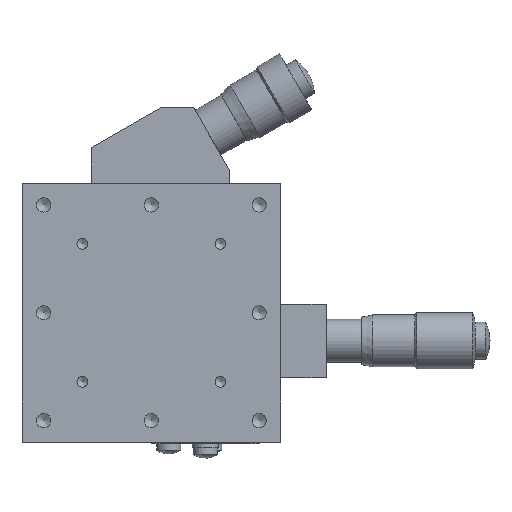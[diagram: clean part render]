
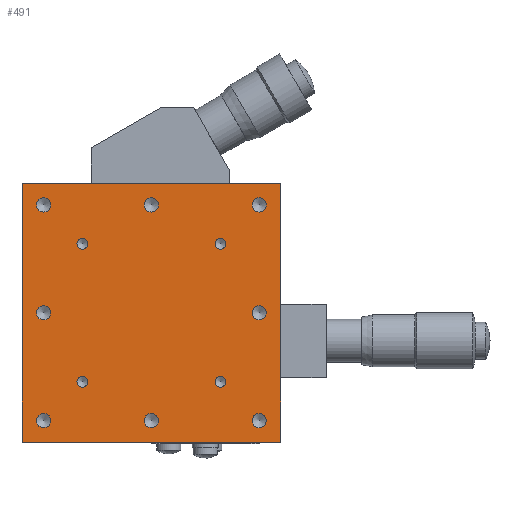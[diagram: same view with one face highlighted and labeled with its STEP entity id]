
A CAD part, top view. The second image highlights one B-rep face of the part: STEP entity #491.
In plain terms, the highlighted planar face has unit normal (0, 0, 1).
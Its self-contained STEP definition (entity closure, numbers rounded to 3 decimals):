
#491 = ADVANCED_FACE( '', ( #1070, #1071, #1072, #1073, #1074, #1075, #1076, #1077, #1078, #1079, #1080, #1081, #1082 ), #1083, .T. );
#1070 = FACE_BOUND( '', #1719, .T. );
#1071 = FACE_BOUND( '', #1720, .T. );
#1072 = FACE_BOUND( '', #1721, .T. );
#1073 = FACE_BOUND( '', #1722, .T. );
#1074 = FACE_BOUND( '', #1723, .T. );
#1075 = FACE_BOUND( '', #1724, .T. );
#1076 = FACE_BOUND( '', #1725, .T. );
#1077 = FACE_BOUND( '', #1726, .T. );
#1078 = FACE_BOUND( '', #1727, .T. );
#1079 = FACE_BOUND( '', #1728, .T. );
#1080 = FACE_BOUND( '', #1729, .T. );
#1081 = FACE_BOUND( '', #1730, .T. );
#1082 = FACE_OUTER_BOUND( '', #1731, .T. );
#1083 = PLANE( '', #1732 );
#1719 = EDGE_LOOP( '', ( #2827 ) );
#1720 = EDGE_LOOP( '', ( #2828 ) );
#1721 = EDGE_LOOP( '', ( #2829 ) );
#1722 = EDGE_LOOP( '', ( #2830 ) );
#1723 = EDGE_LOOP( '', ( #2831 ) );
#1724 = EDGE_LOOP( '', ( #2832 ) );
#1725 = EDGE_LOOP( '', ( #2833 ) );
#1726 = EDGE_LOOP( '', ( #2834 ) );
#1727 = EDGE_LOOP( '', ( #2835 ) );
#1728 = EDGE_LOOP( '', ( #2836 ) );
#1729 = EDGE_LOOP( '', ( #2837 ) );
#1730 = EDGE_LOOP( '', ( #2838 ) );
#1731 = EDGE_LOOP( '', ( #2839, #2840, #2841, #2842 ) );
#1732 = AXIS2_PLACEMENT_3D( '', #2843, #2844, #2845 );
#2827 = ORIENTED_EDGE( '', *, *, #3009, .T. );
#2828 = ORIENTED_EDGE( '', *, *, #3221, .T. );
#2829 = ORIENTED_EDGE( '', *, *, #3034, .T. );
#2830 = ORIENTED_EDGE( '', *, *, #3225, .T. );
#2831 = ORIENTED_EDGE( '', *, *, #3287, .T. );
#2832 = ORIENTED_EDGE( '', *, *, #3092, .T. );
#2833 = ORIENTED_EDGE( '', *, *, #3186, .T. );
#2834 = ORIENTED_EDGE( '', *, *, #3327, .T. );
#2835 = ORIENTED_EDGE( '', *, *, #3362, .T. );
#2836 = ORIENTED_EDGE( '', *, *, #3305, .T. );
#2837 = ORIENTED_EDGE( '', *, *, #3285, .T. );
#2838 = ORIENTED_EDGE( '', *, *, #3392, .T. );
#2839 = ORIENTED_EDGE( '', *, *, #3281, .T. );
#2840 = ORIENTED_EDGE( '', *, *, #3094, .F. );
#2841 = ORIENTED_EDGE( '', *, *, #3029, .T. );
#2842 = ORIENTED_EDGE( '', *, *, #3393, .T. );
#2843 = CARTESIAN_POINT( '', ( 0., 0., 30. ) );
#2844 = DIRECTION( '', ( 0., 0., 1. ) );
#2845 = DIRECTION( '', ( 1., 0., 0. ) );
#3009 = EDGE_CURVE( '', #3474, #3474, #3475, .T. );
#3029 = EDGE_CURVE( '', #3511, #3509, #3512, .T. );
#3034 = EDGE_CURVE( '', #3519, #3519, #3520, .T. );
#3092 = EDGE_CURVE( '', #3615, #3615, #3616, .T. );
#3094 = EDGE_CURVE( '', #3511, #3618, #3619, .T. );
#3186 = EDGE_CURVE( '', #3761, #3761, #3762, .T. );
#3221 = EDGE_CURVE( '', #3816, #3816, #3817, .T. );
#3225 = EDGE_CURVE( '', #3822, #3822, #3823, .T. );
#3281 = EDGE_CURVE( '', #3903, #3618, #3904, .T. );
#3285 = EDGE_CURVE( '', #3908, #3908, #3909, .T. );
#3287 = EDGE_CURVE( '', #3911, #3911, #3912, .T. );
#3305 = EDGE_CURVE( '', #3934, #3934, #3935, .T. );
#3327 = EDGE_CURVE( '', #3962, #3962, #3963, .T. );
#3362 = EDGE_CURVE( '', #4001, #4001, #4002, .T. );
#3392 = EDGE_CURVE( '', #4030, #4030, #4031, .T. );
#3393 = EDGE_CURVE( '', #3509, #3903, #4032, .T. );
#3474 = VERTEX_POINT( '', #4119 );
#3475 = CIRCLE( '', #4120, 1.25 );
#3509 = VERTEX_POINT( '', #4164 );
#3511 = VERTEX_POINT( '', #4167 );
#3512 = LINE( '', #4168, #4169 );
#3519 = VERTEX_POINT( '', #4178 );
#3520 = CIRCLE( '', #4179, 1.25 );
#3615 = VERTEX_POINT( '', #4297 );
#3616 = CIRCLE( '', #4298, 1.65 );
#3618 = VERTEX_POINT( '', #4300 );
#3619 = LINE( '', #4301, #4302 );
#3761 = VERTEX_POINT( '', #4487 );
#3762 = CIRCLE( '', #4488, 1.65 );
#3816 = VERTEX_POINT( '', #4562 );
#3817 = CIRCLE( '', #4563, 1.25 );
#3822 = VERTEX_POINT( '', #4568 );
#3823 = CIRCLE( '', #4569, 1.25 );
#3903 = VERTEX_POINT( '', #4672 );
#3904 = LINE( '', #4673, #4674 );
#3908 = VERTEX_POINT( '', #4680 );
#3909 = CIRCLE( '', #4681, 1.65 );
#3911 = VERTEX_POINT( '', #4683 );
#3912 = CIRCLE( '', #4684, 1.65 );
#3934 = VERTEX_POINT( '', #4706 );
#3935 = CIRCLE( '', #4707, 1.65 );
#3962 = VERTEX_POINT( '', #4740 );
#3963 = CIRCLE( '', #4741, 1.65 );
#4001 = VERTEX_POINT( '', #4792 );
#4002 = CIRCLE( '', #4793, 1.65 );
#4030 = VERTEX_POINT( '', #4824 );
#4031 = CIRCLE( '', #4825, 1.65 );
#4032 = LINE( '', #4826, #4827 );
#4119 = CARTESIAN_POINT( '', ( -16., 14.75, 30. ) );
#4120 = AXIS2_PLACEMENT_3D( '', #4912, #4913, #4914 );
#4164 = CARTESIAN_POINT( '', ( -30., -30., 30. ) );
#4167 = CARTESIAN_POINT( '', ( -30., 30., 30. ) );
#4168 = CARTESIAN_POINT( '', ( -30., 0., 30. ) );
#4169 = VECTOR( '', #4938, 1000. );
#4178 = CARTESIAN_POINT( '', ( 16., -17.25, 30. ) );
#4179 = AXIS2_PLACEMENT_3D( '', #4944, #4945, #4946 );
#4297 = CARTESIAN_POINT( '', ( -25., 23.35, 30. ) );
#4298 = AXIS2_PLACEMENT_3D( '', #5024, #5025, #5026 );
#4300 = CARTESIAN_POINT( '', ( 30., 30., 30. ) );
#4301 = CARTESIAN_POINT( '', ( 0., 30., 30. ) );
#4302 = VECTOR( '', #5027, 1000. );
#4487 = CARTESIAN_POINT( '', ( 0., 23.35, 30. ) );
#4488 = AXIS2_PLACEMENT_3D( '', #5134, #5135, #5136 );
#4562 = CARTESIAN_POINT( '', ( 16., 14.75, 30. ) );
#4563 = AXIS2_PLACEMENT_3D( '', #5172, #5173, #5174 );
#4568 = CARTESIAN_POINT( '', ( -16., -17.25, 30. ) );
#4569 = AXIS2_PLACEMENT_3D( '', #5178, #5179, #5180 );
#4672 = CARTESIAN_POINT( '', ( 30., -30., 30. ) );
#4673 = CARTESIAN_POINT( '', ( 30., 0., 30. ) );
#4674 = VECTOR( '', #5243, 1000. );
#4680 = CARTESIAN_POINT( '', ( 0., -26.65, 30. ) );
#4681 = AXIS2_PLACEMENT_3D( '', #5246, #5247, #5248 );
#4683 = CARTESIAN_POINT( '', ( -25., -1.65, 30. ) );
#4684 = AXIS2_PLACEMENT_3D( '', #5249, #5250, #5251 );
#4706 = CARTESIAN_POINT( '', ( 25., -26.65, 30. ) );
#4707 = AXIS2_PLACEMENT_3D( '', #5273, #5274, #5275 );
#4740 = CARTESIAN_POINT( '', ( 25., 23.35, 30. ) );
#4741 = AXIS2_PLACEMENT_3D( '', #5294, #5295, #5296 );
#4792 = CARTESIAN_POINT( '', ( 25., -1.65, 30. ) );
#4793 = AXIS2_PLACEMENT_3D( '', #5319, #5320, #5321 );
#4824 = CARTESIAN_POINT( '', ( -25., -26.65, 30. ) );
#4825 = AXIS2_PLACEMENT_3D( '', #5334, #5335, #5336 );
#4826 = CARTESIAN_POINT( '', ( 0., -30., 30. ) );
#4827 = VECTOR( '', #5337, 1000. );
#4912 = CARTESIAN_POINT( '', ( -16., 16., 30. ) );
#4913 = DIRECTION( '', ( 0., 0., -1. ) );
#4914 = DIRECTION( '', ( 0., -1., 0. ) );
#4938 = DIRECTION( '', ( 0., -1., 0. ) );
#4944 = CARTESIAN_POINT( '', ( 16., -16., 30. ) );
#4945 = DIRECTION( '', ( 0., 0., -1. ) );
#4946 = DIRECTION( '', ( 0., -1., 0. ) );
#5024 = CARTESIAN_POINT( '', ( -25., 25., 30. ) );
#5025 = DIRECTION( '', ( 0., 0., -1. ) );
#5026 = DIRECTION( '', ( 0., -1., 0. ) );
#5027 = DIRECTION( '', ( 1., 0., 0. ) );
#5134 = CARTESIAN_POINT( '', ( 0., 25., 30. ) );
#5135 = DIRECTION( '', ( 0., 0., -1. ) );
#5136 = DIRECTION( '', ( 0., -1., 0. ) );
#5172 = CARTESIAN_POINT( '', ( 16., 16., 30. ) );
#5173 = DIRECTION( '', ( 0., 0., -1. ) );
#5174 = DIRECTION( '', ( 0., -1., 0. ) );
#5178 = CARTESIAN_POINT( '', ( -16., -16., 30. ) );
#5179 = DIRECTION( '', ( 0., 0., -1. ) );
#5180 = DIRECTION( '', ( 0., -1., 0. ) );
#5243 = DIRECTION( '', ( 0., 1., 0. ) );
#5246 = CARTESIAN_POINT( '', ( 0., -25., 30. ) );
#5247 = DIRECTION( '', ( 0., 0., -1. ) );
#5248 = DIRECTION( '', ( 0., -1., 0. ) );
#5249 = CARTESIAN_POINT( '', ( -25., 0., 30. ) );
#5250 = DIRECTION( '', ( 0., 0., -1. ) );
#5251 = DIRECTION( '', ( 0., -1., 0. ) );
#5273 = CARTESIAN_POINT( '', ( 25., -25., 30. ) );
#5274 = DIRECTION( '', ( 0., 0., -1. ) );
#5275 = DIRECTION( '', ( 0., -1., 0. ) );
#5294 = CARTESIAN_POINT( '', ( 25., 25., 30. ) );
#5295 = DIRECTION( '', ( 0., 0., -1. ) );
#5296 = DIRECTION( '', ( 0., -1., 0. ) );
#5319 = CARTESIAN_POINT( '', ( 25., 0., 30. ) );
#5320 = DIRECTION( '', ( 0., 0., -1. ) );
#5321 = DIRECTION( '', ( 0., -1., 0. ) );
#5334 = CARTESIAN_POINT( '', ( -25., -25., 30. ) );
#5335 = DIRECTION( '', ( 0., 0., -1. ) );
#5336 = DIRECTION( '', ( 0., -1., 0. ) );
#5337 = DIRECTION( '', ( 1., 0., 0. ) );
